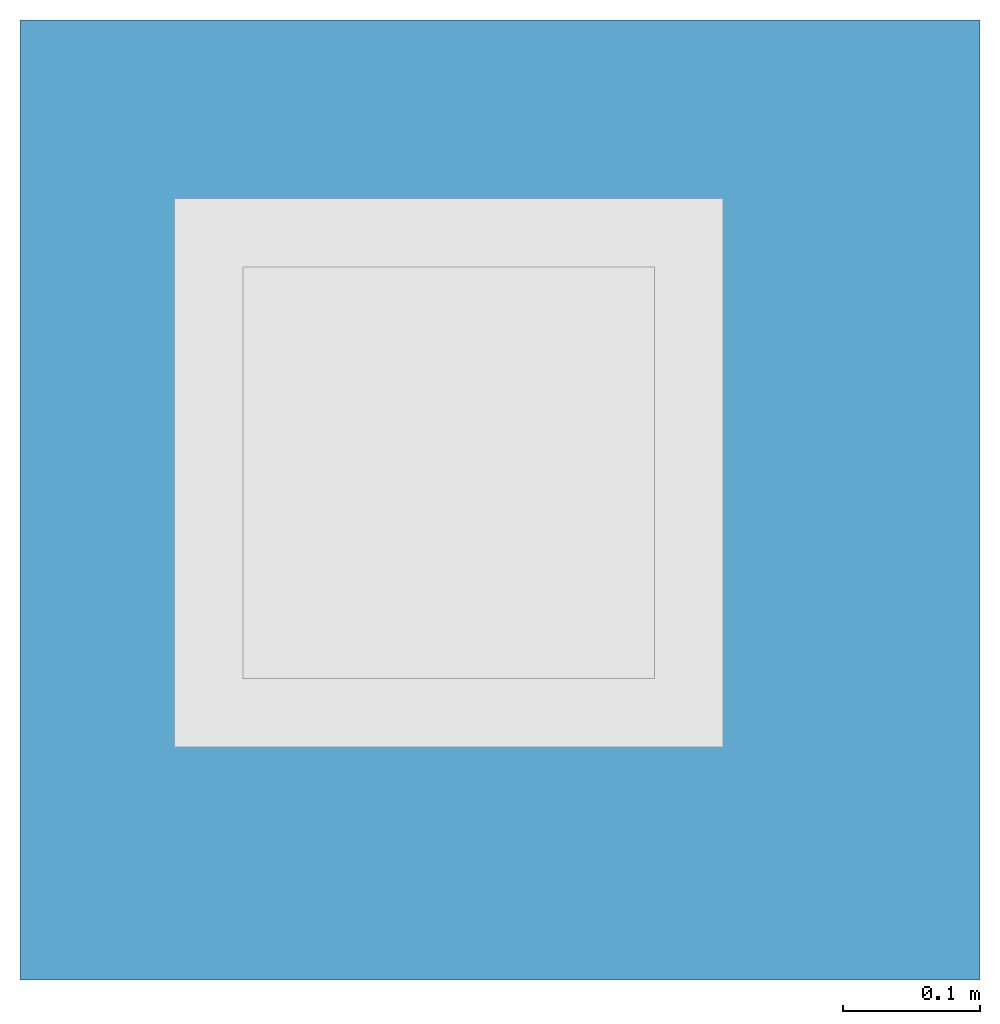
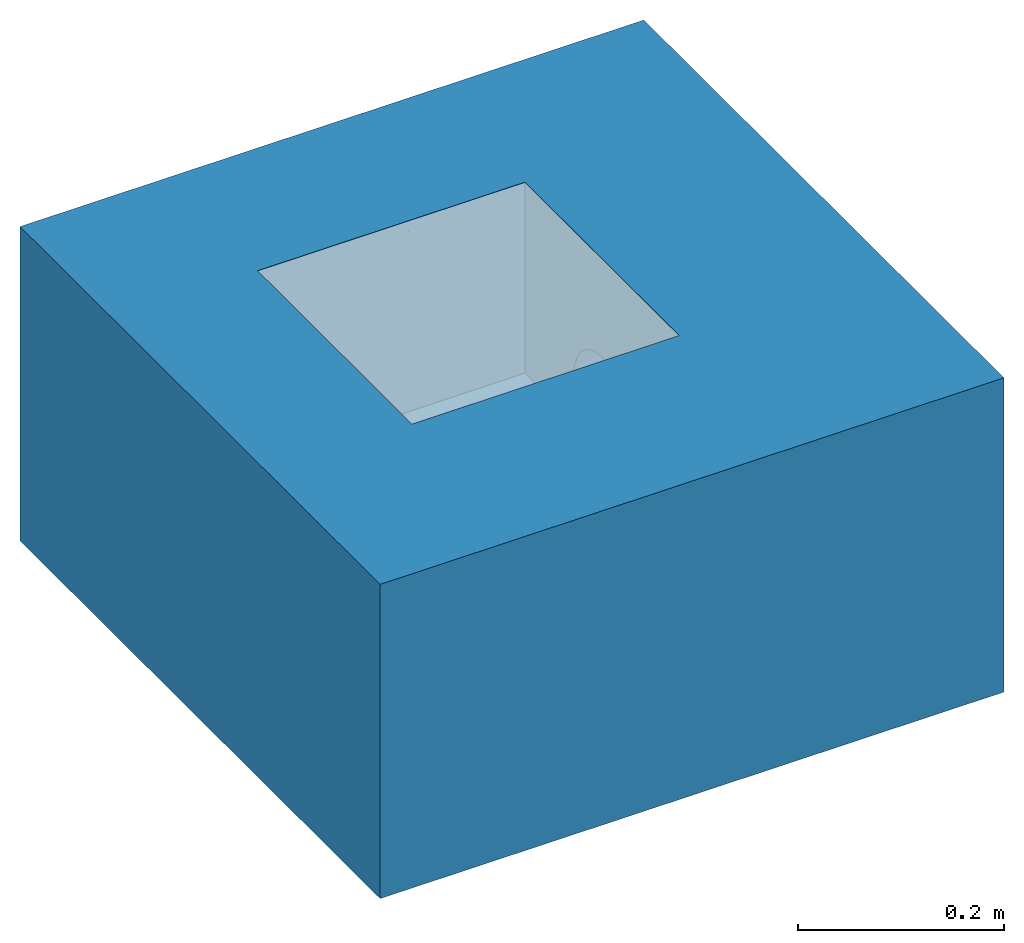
# One storey, incomplete: 1 slab, 1 opening.
"""IFC2X3 building model written with IfcOpenShell, lengths in millimetres."""

from ifc_helpers import new_model, entity, si_unit, converted_unit, derived_unit, direction, frame, frame_2d, origin, place, context, subcontext, project, spatial, rectangle, extrude, faceted_brep, material, layer, layer_set, layer_usage, element, save


model = new_model("IFC2X3")

# Units and contexts
model_context = context("Model", 3, precision=1e-05, world=origin(), true_north=direction((2.0, 6.12303176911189e-17, 1.0)))
context_of_model = context(None, 3, precision=1e-05, world=origin(), true_north=direction((2.0, 6.12303176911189e-17, 1.0)))
body_context = subcontext(model_context, "Body", "Model", "MODEL_VIEW")
ifc_project = project(units=[si_unit("LENGTHUNIT", "METRE", prefix="MILLI"), converted_unit("AREAUNIT", "SQUARE FOOT", entity("IfcRatioMeasure", 0.09290304), si_unit("AREAUNIT", "SQUARE_METRE"), dimensions=[2, 0, 0, 0, 0, 0, 0]), converted_unit("VOLUMEUNIT", "CUBIC FOOT", entity("IfcRatioMeasure", 0.028316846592), si_unit("VOLUMEUNIT", "CUBIC_METRE"), dimensions=[3, 0, 0, 0, 0, 0, 0]), converted_unit("PLANEANGLEUNIT", "DEGREE", entity("IfcRatioMeasure", 0.0174532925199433), si_unit("PLANEANGLEUNIT", "RADIAN"), dimensions=[0, 0, 0, 0, 0, 0, 0]), si_unit("MASSUNIT", "GRAM", prefix="KILO"), si_unit("TIMEUNIT", "SECOND"), si_unit("THERMODYNAMICTEMPERATUREUNIT", "KELVIN"), derived_unit("THERMALTRANSMITTANCEUNIT", [(si_unit("MASSUNIT", "GRAM", prefix="KILO"), 1), (si_unit("THERMODYNAMICTEMPERATUREUNIT", "KELVIN"), -1), (si_unit("TIMEUNIT", "SECOND"), -3)]), derived_unit("VOLUMETRICFLOWRATEUNIT", [(si_unit("LENGTHUNIT", "METRE"), 3), (si_unit("TIMEUNIT", "SECOND"), -1)]), si_unit("POWERUNIT", "WATT")], contexts=[model_context, context_of_model])

# Site, building, storey
site_placement = place(None, origin())
site = spatial("IfcSite", under=ifc_project, at=site_placement, Name="Default", CompositionType="ELEMENT")
building_placement = place(site_placement, origin())
building = spatial("IfcBuilding", under=site, at=building_placement, CompositionType="ELEMENT")
storey_placement = place(building_placement, origin())
storey = spatial("IfcBuildingStorey", under=building, at=storey_placement, Name="Level 1", CompositionType="ELEMENT", Elevation=0.0)

# Slab, opening
ifc_material_1 = material(Name="Plywood, Sheathing")
ifc_layer_1 = layer(ifc_material_1, 68.0)
ifc_material_2 = material(Name="Default Floor")
ifc_layer_2 = layer(ifc_material_2, 304.8)
ifc_layer_set = layer_set([ifc_layer_1, ifc_layer_2], Name="Floor:Generic - 12\"")
ifc_layer_usage = layer_usage(ifc_layer_set, "AXIS3", "POSITIVE", 0.0)
slab_placement = place(storey_placement, frame((-10498.0627721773, 2392.60708548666, -372.8)))
slab = element("IfcSlab", 1, at=slab_placement, inside=storey, material=ifc_layer_usage, Name="Floor:Generic - 12\"", ObjectType="Floor:Generic - 12\"", PredefinedType="FLOOR", context=body_context, shape_type="SweptSolid", body=[
    extrude(rectangle(XDim=700.0, YDim=699.999999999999, at=frame_2d((0.0, 0.0), x_axis=(0.0, -1.0))), frame((350.0, 350.0, 372.8), z_axis=(0.0, 0.0, -1.0), x_axis=(-1.0, 0.0, 0.0)), (0.0, 0.0, 1.0), 372.8),
])
opening_placement = place(slab_placement, frame((162.617142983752, 219.83137283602, 144.704727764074)))
element("IfcOpeningElement", 2, at=opening_placement, cuts=slab, ObjectType="Recess", context=body_context, shape_type="Brep", body=[
    faceted_brep([(348.973927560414, 164.207585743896, 3.46935179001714), (348.973927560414, 177.472538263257, 8.96387502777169), (348.973927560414, 188.863411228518, 17.7043992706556), (348.973927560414, 197.603935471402, 29.0952722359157), (348.973927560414, 203.098458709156, 42.360224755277), (348.973927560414, 203.098458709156, 70.8303197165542), (348.973927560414, 96.846617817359, 42.3602247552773), (348.973927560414, 122.472538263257, 104.22666944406), (348.973927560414, 149.972538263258, 1.5952722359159), (348.973927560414, 122.472538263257, 8.96387502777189), (348.973927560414, 135.737490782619, 3.46935179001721), (348.973927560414, 111.081665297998, 17.7043992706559), (348.973927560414, 102.341141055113, 29.095272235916), (348.973927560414, 204.972538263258, 56.5952722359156), (348.973927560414, 197.603935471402, 84.0952722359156), (348.973927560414, 149.972538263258, 111.595272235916), (348.973927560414, 188.863411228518, 95.4861452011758), (348.973927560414, 164.207585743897, 109.721192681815), (348.973927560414, 177.472538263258, 104.22666944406), (348.973927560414, 96.846617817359, 70.8303197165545), (348.973927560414, 111.081665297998, 95.486145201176), (348.973927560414, 102.341141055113, 84.0952722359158), (348.973927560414, 94.9725382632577, 56.5952722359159), (348.973927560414, 135.737490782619, 109.721192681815), (299.945076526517, 135.737490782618, 109.721192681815), (299.945076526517, 149.972538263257, 111.595272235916), (299.945076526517, 122.472538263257, 104.22666944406), (299.945076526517, 111.081665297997, 95.4861452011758), (299.945076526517, 102.341141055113, 84.0952722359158), (299.945076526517, 96.846617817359, 70.8303197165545), (299.945076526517, 94.9725382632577, 56.5952722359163), (299.945076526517, 102.341141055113, 29.0952722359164), (299.945076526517, 96.846617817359, 42.3602247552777), (299.945076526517, 111.081665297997, 17.7043992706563), (299.945076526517, 122.472538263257, 8.96387502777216), (299.945076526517, 135.737490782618, 3.46935179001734), (299.973927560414, 149.972538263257, 1.5952722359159), (299.945076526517, 164.207585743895, 3.46935179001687), (299.945076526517, 177.472538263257, 8.96387502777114), (299.945076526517, 203.098458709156, 42.360224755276), (299.945076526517, 204.972538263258, 56.5952722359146), (299.945076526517, 188.863411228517, 17.7043992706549), (299.945076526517, 197.603935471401, 29.0952722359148), (299.945076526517, 197.603935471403, 84.0952722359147), (299.945076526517, 203.098458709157, 70.8303197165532), (299.945076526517, 188.863411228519, 95.486145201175), (299.945076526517, 177.472538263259, 104.226669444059), (299.945076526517, 164.207585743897, 109.721192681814), (0.0, 0.0, 1.59527223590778), (0.0, 299.945076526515, 1.59527223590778), (299.945076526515, 0.0, 1.59527223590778), (299.945076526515, 299.945076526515, 1.59527223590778), (299.945076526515, 0.0, 228.095272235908), (299.945076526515, 299.945076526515, 228.095272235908), (0.0, 299.945076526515, 228.095272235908), (0.0, 0.0, 228.095272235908)], [[[0, 1, 2]], [[0, 2, 3]], [[0, 4, 5]], [[4, 0, 3]], [[6, 0, 7]], [[8, 9, 10]], [[8, 0, 9]], [[11, 6, 12]], [[6, 11, 9]], [[0, 6, 9]], [[5, 4, 13]], [[14, 7, 5]], [[15, 14, 16]], [[17, 15, 16]], [[17, 16, 18]], [[7, 14, 15]], [[19, 20, 21]], [[19, 22, 6]], [[19, 7, 20]], [[7, 19, 6]], [[15, 23, 7]], [[7, 0, 5]], [[24, 23, 25]], [[26, 7, 24]], [[26, 27, 20]], [[27, 28, 21]], [[24, 7, 23]], [[23, 15, 25]], [[22, 19, 29]], [[29, 19, 21]], [[20, 27, 21]], [[20, 7, 26]], [[28, 29, 21]], [[29, 30, 22]], [[31, 6, 32]], [[33, 12, 31]], [[9, 34, 35]], [[33, 34, 11]], [[10, 35, 36]], [[32, 6, 22]], [[31, 12, 6]], [[33, 11, 12]], [[34, 9, 11]], [[10, 9, 35]], [[36, 8, 10]], [[32, 22, 30]], [[37, 0, 36]], [[38, 1, 37]], [[39, 40, 4]], [[41, 2, 38]], [[37, 1, 0]], [[0, 8, 36]], [[3, 42, 4]], [[3, 2, 41]], [[42, 39, 4]], [[2, 1, 38]], [[41, 42, 3]], [[40, 13, 4]], [[43, 5, 44]], [[45, 14, 43]], [[18, 46, 47]], [[45, 46, 16]], [[17, 47, 25]], [[44, 5, 13]], [[43, 14, 5]], [[45, 16, 14]], [[46, 18, 16]], [[17, 18, 47]], [[25, 15, 17]], [[44, 13, 40]], [[48, 49, 36]], [[36, 50, 48]], [[36, 49, 51]], [[52, 53, 54]], [[54, 55, 52]], [[54, 53, 51]], [[51, 49, 54]], [[55, 54, 49]], [[49, 48, 55]], [[52, 55, 48]], [[48, 50, 52]], [[52, 26, 24]], [[26, 52, 27]], [[52, 24, 25]], [[50, 30, 29]], [[28, 27, 52]], [[29, 28, 52]], [[29, 52, 50]], [[53, 25, 47]], [[25, 53, 52]], [[53, 47, 46]], [[46, 45, 53]], [[43, 44, 53]], [[45, 43, 53]], [[53, 44, 51]], [[31, 32, 50]], [[33, 31, 50]], [[34, 50, 35]], [[50, 34, 33]], [[36, 35, 50]], [[32, 30, 50]], [[42, 41, 51]], [[40, 39, 51]], [[42, 51, 39]], [[37, 36, 51]], [[38, 51, 41]], [[51, 38, 37]], [[40, 51, 44]]]),
])

save(model, "model.ifc")
